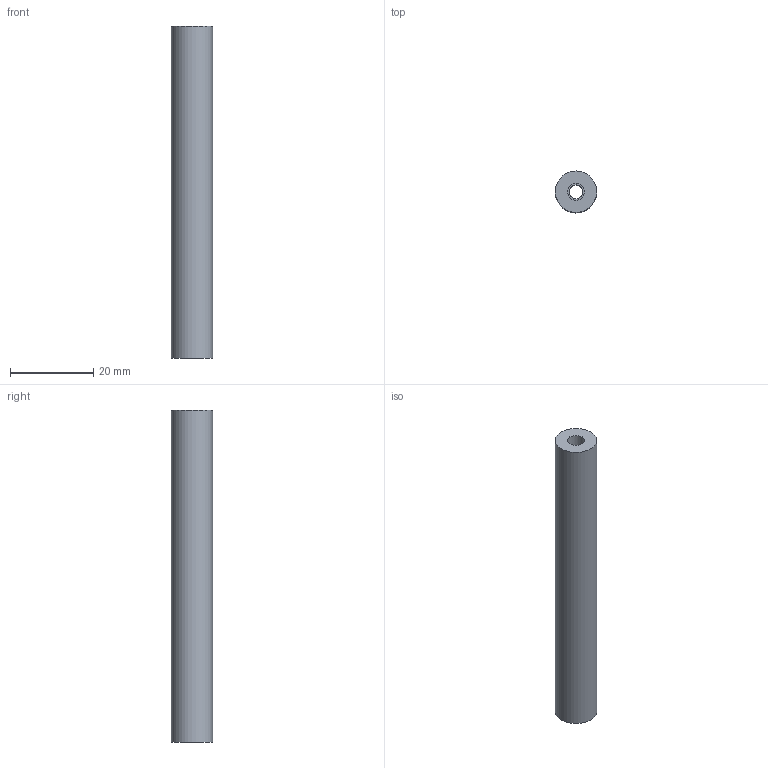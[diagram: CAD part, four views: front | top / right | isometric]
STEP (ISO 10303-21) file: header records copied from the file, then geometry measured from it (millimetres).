
FILE_DESCRIPTION(('Open CASCADE Model'),'2;1');
FILE_NAME('Open CASCADE Shape Model','2026-10-21T12:47:56',('Author'),( 'Open CASCADE'),'Open CASCADE STEP processor 7.9','Open CASCADE 7.9' ,'Unknown');
FILE_SCHEMA(('AUTOMOTIVE_DESIGN { 1 0 10303 214 1 1 1 1 }'));
Length unit declared in the file: millimetre
Products named in the file (1): Open CASCADE STEP translator 7.9 14
Bounding box: 10 x 10 x 80 mm (x, y, z)
Volume: 5543.2 mm3; surface area: 3512.8 mm2
Topology: 1 solids, 1 shells, 8 faces, 12 edges, 8 vertices
Faces by surface type: cylinder 4, plane 4
Full cylindrical faces by diameter (mm): 3.3 x1, 4.1 x2, 10 x1
Entity records: 354 total; most frequent: DIRECTION 62, CARTESIAN_POINT 53, ORIENTED_EDGE 24, PCURVE 24, DEFINITIONAL_REPRESENTATION 24, LINE 20, VECTOR 20, AXIS2_PLACEMENT_3D 17
